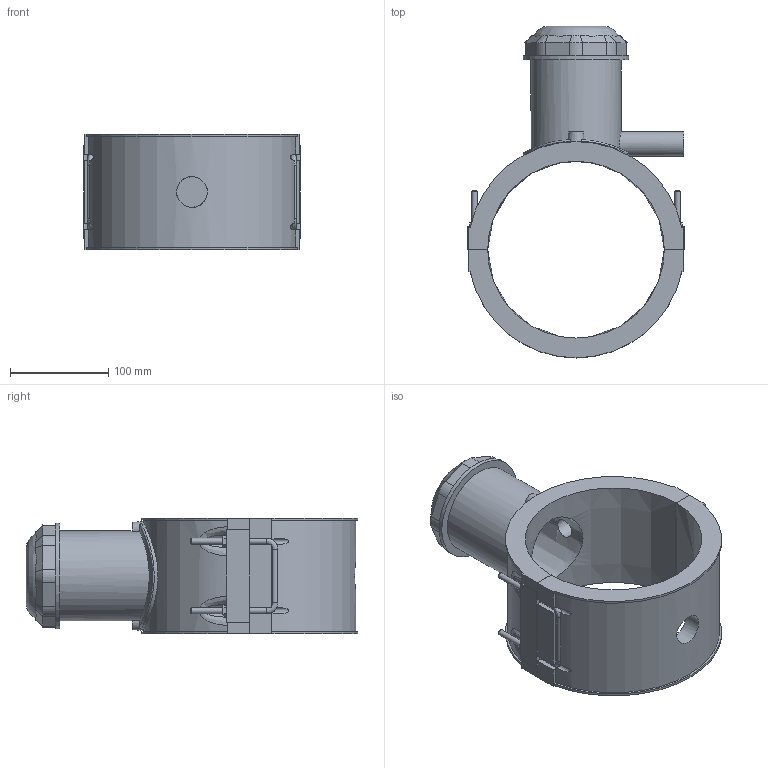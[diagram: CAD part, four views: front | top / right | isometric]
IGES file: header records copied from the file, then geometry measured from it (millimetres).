
Global section: file name: 496304180025.ipt; native system: Autodesk Inventor 2015; preprocessor: unknown; author: KIM; date: 20190124.131057; units: millimetre
Bounding box: 221 x 338.16 x 118 mm (x, y, z)
Volume: 1713064.2 mm3; surface area: 267168.5 mm2
Topology: 1 solids, 1 shells, 209 faces, 567 edges, 370 vertices
Faces by surface type: plane 127, cylinder 37, revolution 24, cone 14, bspline 7
Full cylindrical faces by diameter (mm): 6 x8, 25 x1, 91.8 x1, 108 x1
